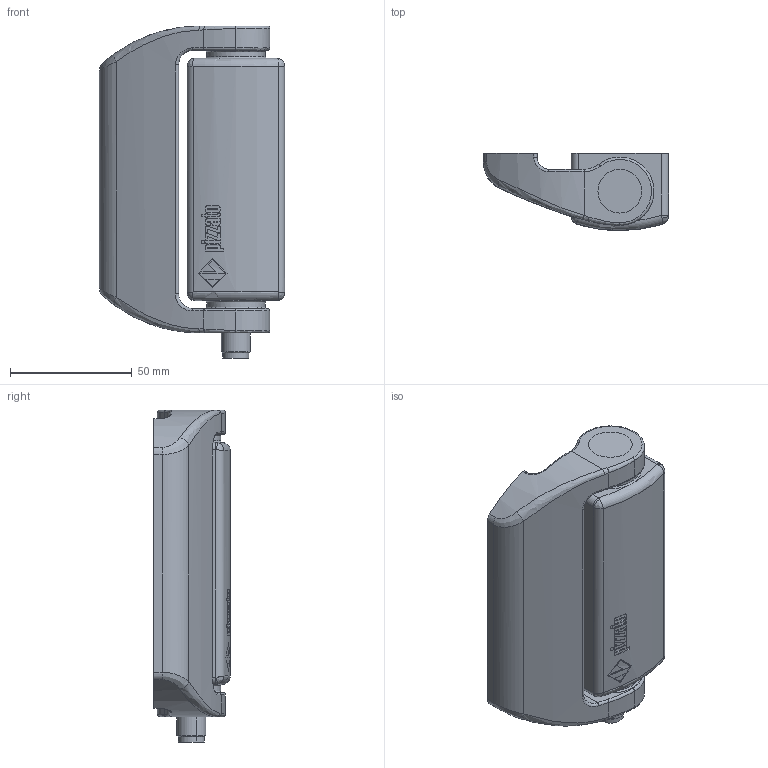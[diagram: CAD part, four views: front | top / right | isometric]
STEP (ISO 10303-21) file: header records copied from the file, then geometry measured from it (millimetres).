
FILE_DESCRIPTION (( 'STEP AP203' ), '1' );
FILE_NAME ('ZF_STEP_HX_Bxxx-KAM_A13.step', '2013-04-20T06:59:29', ( 'Pizzato Elettrica' ), ( '' ), 'SwSTEP 2.0', 'SolidWorks 2011', '' );
FILE_SCHEMA (( 'CONFIG_CONTROL_DESIGN' ));
Length unit declared in the file: millimetre
Products named in the file (4): ZF_STEP_HX_Bxxx-KAM_A13; ConnettoreM12; Pizzato_Parte_Mobile_HX_Bxxx; Pizzato_Parte_Fissa_HX_Bxxx_HX Bxxx-x(SA)x
Assembly tree (3 placements, depth 2):
  ZF_STEP_HX_Bxxx-KAM_A13
    ConnettoreM12
    Pizzato_Parte_Mobile_HX_Bxxx
    Pizzato_Parte_Fissa_HX_Bxxx_HX Bxxx-x(SA)x
Bounding box: 76 x 31.5 x 136.3 mm (x, y, z)
Volume: 184672.2 mm3; surface area: 36535.5 mm2
Topology: 3 solids, 3 shells, 465 faces, 1186 edges, 744 vertices
Faces by surface type: plane 197, bspline 132, cylinder 90, cone 31, torus 15
Entity records: 22173 total; most frequent: CARTESIAN_POINT 11501, ORIENTED_EDGE 2316, DIRECTION 1788, EDGE_CURVE 1158, VERTEX_POINT 744, AXIS2_PLACEMENT_3D 602, LINE 584, VECTOR 584
